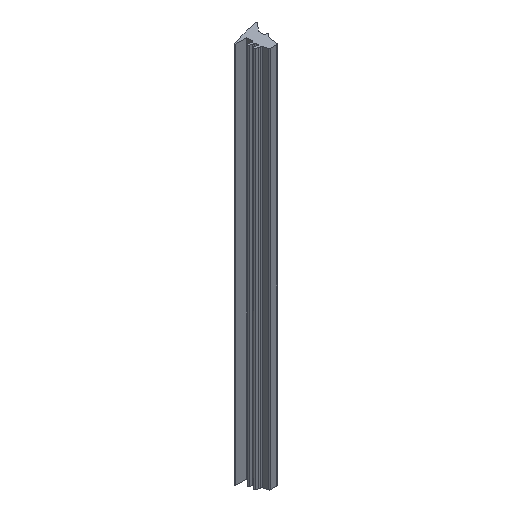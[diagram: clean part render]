
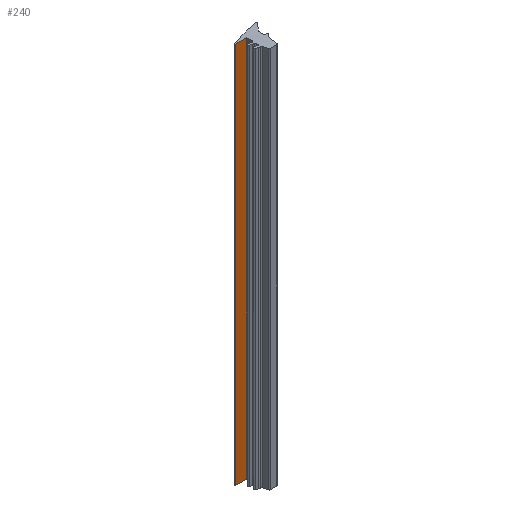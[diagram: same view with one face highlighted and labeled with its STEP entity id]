
A CAD part, isometric view. The second image highlights one B-rep face of the part: STEP entity #240.
In plain terms, the highlighted planar face has unit normal (0, -1, 0).
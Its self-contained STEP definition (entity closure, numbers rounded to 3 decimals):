
#16 = VERTEX_POINT ( 'NONE', #1008 ) ;
#58 = CARTESIAN_POINT ( 'NONE',  ( -2.9, 0., 100. ) ) ;
#87 = LINE ( 'NONE', #709, #378 ) ;
#204 = DIRECTION ( 'NONE',  ( 0., 1., 0. ) ) ;
#230 = CARTESIAN_POINT ( 'NONE',  ( -2.9, 0., 0. ) ) ;
#240 = ADVANCED_FACE ( 'NONE', ( #415 ), #838, .F. ) ;
#253 = CARTESIAN_POINT ( 'NONE',  ( -2.9, 0., 100. ) ) ;
#283 = VERTEX_POINT ( 'NONE', #300 ) ;
#300 = CARTESIAN_POINT ( 'NONE',  ( -2.9, 0., 0. ) ) ;
#335 = CARTESIAN_POINT ( 'NONE',  ( 0., 0., 100. ) ) ;
#378 = VECTOR ( 'NONE', #515, 1000. ) ;
#415 = FACE_OUTER_BOUND ( 'NONE', #1116, .T. ) ;
#440 = LINE ( 'NONE', #335, #1201 ) ;
#463 = CARTESIAN_POINT ( 'NONE',  ( 0., 0., 0. ) ) ;
#515 = DIRECTION ( 'NONE',  ( 0., 0., -1. ) ) ;
#551 = VERTEX_POINT ( 'NONE', #253 ) ;
#555 = ORIENTED_EDGE ( 'NONE', *, *, #1296, .T. ) ;
#596 = DIRECTION ( 'NONE',  ( 1., 0., 0. ) ) ;
#603 = ORIENTED_EDGE ( 'NONE', *, *, #873, .F. ) ;
#673 = EDGE_CURVE ( 'NONE', #551, #283, #87, .T. ) ;
#688 = EDGE_CURVE ( 'NONE', #551, #16, #1012, .T. ) ;
#709 = CARTESIAN_POINT ( 'NONE',  ( -2.9, 0., 100. ) ) ;
#742 = AXIS2_PLACEMENT_3D ( 'NONE', #1159, #204, #1148 ) ;
#762 = VECTOR ( 'NONE', #596, 1000. ) ;
#771 = DIRECTION ( 'NONE',  ( 0., 0., -1. ) ) ;
#838 = PLANE ( 'NONE',  #742 ) ;
#859 = LINE ( 'NONE', #230, #1020 ) ;
#873 = EDGE_CURVE ( 'NONE', #16, #1340, #440, .T. ) ;
#1008 = CARTESIAN_POINT ( 'NONE',  ( 0., 0., 100. ) ) ;
#1012 = LINE ( 'NONE', #58, #762 ) ;
#1020 = VECTOR ( 'NONE', #1279, 1000. ) ;
#1075 = ORIENTED_EDGE ( 'NONE', *, *, #673, .T. ) ;
#1116 = EDGE_LOOP ( 'NONE', ( #555, #603, #1332, #1075 ) ) ;
#1148 = DIRECTION ( 'NONE',  ( 0., 0., 1. ) ) ;
#1159 = CARTESIAN_POINT ( 'NONE',  ( -2.9, 0., 100. ) ) ;
#1201 = VECTOR ( 'NONE', #771, 1000. ) ;
#1279 = DIRECTION ( 'NONE',  ( 1., 0., 0. ) ) ;
#1296 = EDGE_CURVE ( 'NONE', #283, #1340, #859, .T. ) ;
#1332 = ORIENTED_EDGE ( 'NONE', *, *, #688, .F. ) ;
#1340 = VERTEX_POINT ( 'NONE', #463 ) ;
